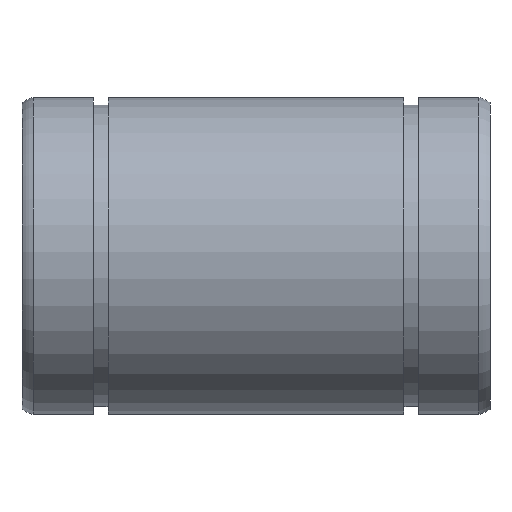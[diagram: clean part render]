
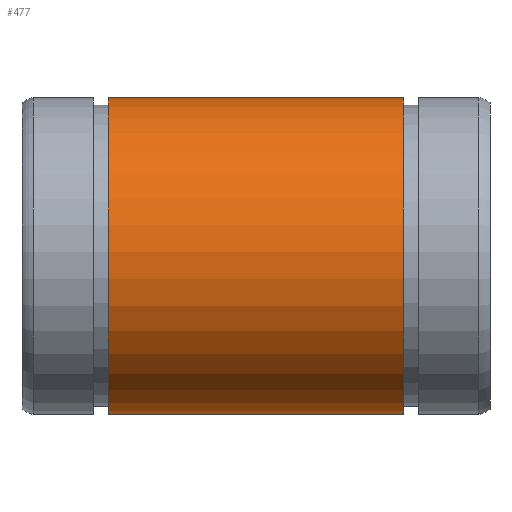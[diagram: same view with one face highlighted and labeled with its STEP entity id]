
A CAD part, front view. The second image highlights one B-rep face of the part: STEP entity #477.
In plain terms, the highlighted cylindrical face has radius 20 mm (diameter 40 mm), a partial arc.
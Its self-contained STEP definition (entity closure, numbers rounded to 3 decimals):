
#90=CARTESIAN_POINT('',(10.85,1.0,-19.975));
#91=VERTEX_POINT('',#90);
#98=CARTESIAN_POINT('',(48.15,1.0,-19.975));
#99=VERTEX_POINT('',#98);
#100=CARTESIAN_POINT('',(48.15,1.0,-19.975));
#101=DIRECTION('',(-1.0,0.0,0.0));
#102=VECTOR('',#101,37.3);
#103=LINE('',#100,#102);
#104=EDGE_CURVE('',#99,#91,#103,.T.);
#333=CARTESIAN_POINT('',(48.15,-1.0,-19.975));
#334=VERTEX_POINT('',#333);
#341=CARTESIAN_POINT('',(10.85,-1.0,-19.975));
#342=VERTEX_POINT('',#341);
#343=CARTESIAN_POINT('',(10.85,-1.0,-19.975));
#344=DIRECTION('',(1.0,0.0,0.0));
#345=VECTOR('',#344,37.3);
#346=LINE('',#343,#345);
#347=EDGE_CURVE('',#342,#334,#346,.T.);
#448=CARTESIAN_POINT('',(10.85,0.0,0.));
#449=DIRECTION('',(-1.0,0.0,0.0));
#450=DIRECTION('',(0.0,0.0,1.0));
#451=AXIS2_PLACEMENT_3D('',#448,#449,#450);
#452=CIRCLE('',#451,20.);
#453=EDGE_CURVE('',#342,#91,#452,.T.);
#460=CARTESIAN_POINT('',(29.5,0.0,0.));
#461=DIRECTION('',(-1.0,0.0,0.));
#462=DIRECTION('',(0.0,0.0,1.0));
#463=AXIS2_PLACEMENT_3D('',#460,#461,#462);
#464=CYLINDRICAL_SURFACE('',#463,20.);
#465=ORIENTED_EDGE('',*,*,#347,.T.);
#466=CARTESIAN_POINT('',(48.15,0.0,0.));
#467=DIRECTION('',(-1.0,0.0,0.0));
#468=DIRECTION('',(0.0,0.0,1.0));
#469=AXIS2_PLACEMENT_3D('',#466,#467,#468);
#470=CIRCLE('',#469,20.);
#471=EDGE_CURVE('',#334,#99,#470,.T.);
#472=ORIENTED_EDGE('',*,*,#471,.T.);
#473=ORIENTED_EDGE('',*,*,#104,.T.);
#474=ORIENTED_EDGE('',*,*,#453,.F.);
#475=EDGE_LOOP('',(#465,#472,#473,#474));
#476=FACE_OUTER_BOUND('',#475,.T.);
#477=ADVANCED_FACE('',(#476),#464,.T.);
